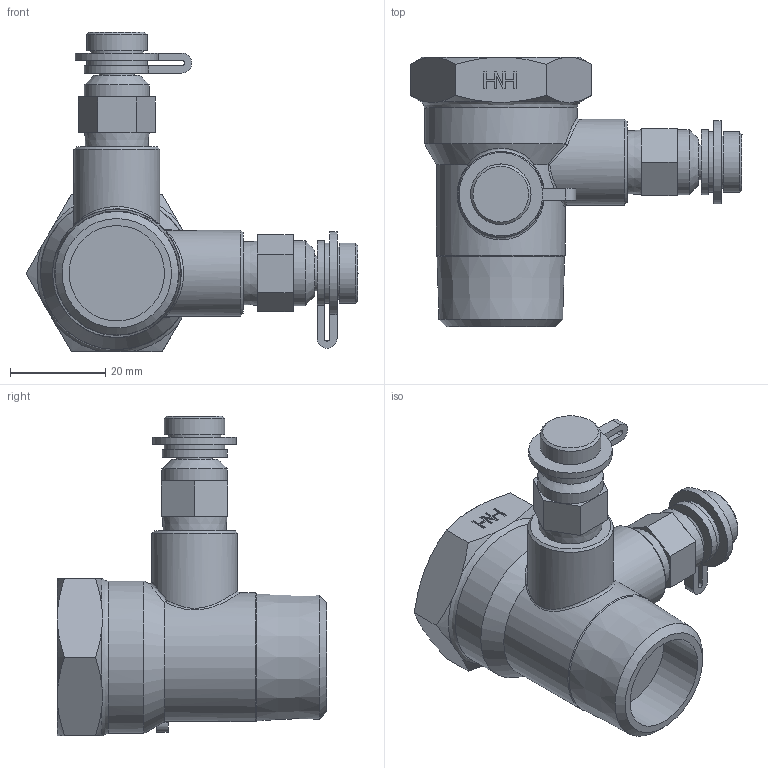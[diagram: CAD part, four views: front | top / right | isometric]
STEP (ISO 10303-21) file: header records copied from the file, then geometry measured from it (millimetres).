
FILE_DESCRIPTION((''),'2;1');
FILE_NAME('P:\Fastrack\53972_CRANE 3D\Workspace\Fig_1000_3-4in\Fig_1000_3-4in.stp','2011-01-12T14:38:32',('btaylor'),(''),'Autodesk Inventor 2008','Autodesk Inventor 2008','');
FILE_SCHEMA(('AUTOMOTIVE_DESIGN { 1 0 10303 214 1 1 1 1 }'));
Length unit declared in the file: millimetre
Products named in the file (1): Fig_1000_3-4in
Bounding box: 69.65 x 56.5 x 67.1 mm (x, y, z)
Volume: 45661.8 mm3; surface area: 12734.8 mm2
Topology: 1 solids, 1 shells, 138 faces, 333 edges, 214 vertices
Faces by surface type: plane 79, cylinder 24, cone 23, bspline 12
Full cylindrical faces by diameter (mm): 7.4 x2, 11 x2, 12.7 x2, 13.7 x2, 18 x2, 27 x1, 32 x1
Entity records: 5888 total; most frequent: CARTESIAN_POINT 2751, ORIENTED_EDGE 592, DIRECTION 574, EDGE_CURVE 296, AXIS2_PLACEMENT_3D 209, VERTEX_POINT 203, EDGE_LOOP 185, VECTOR 156
